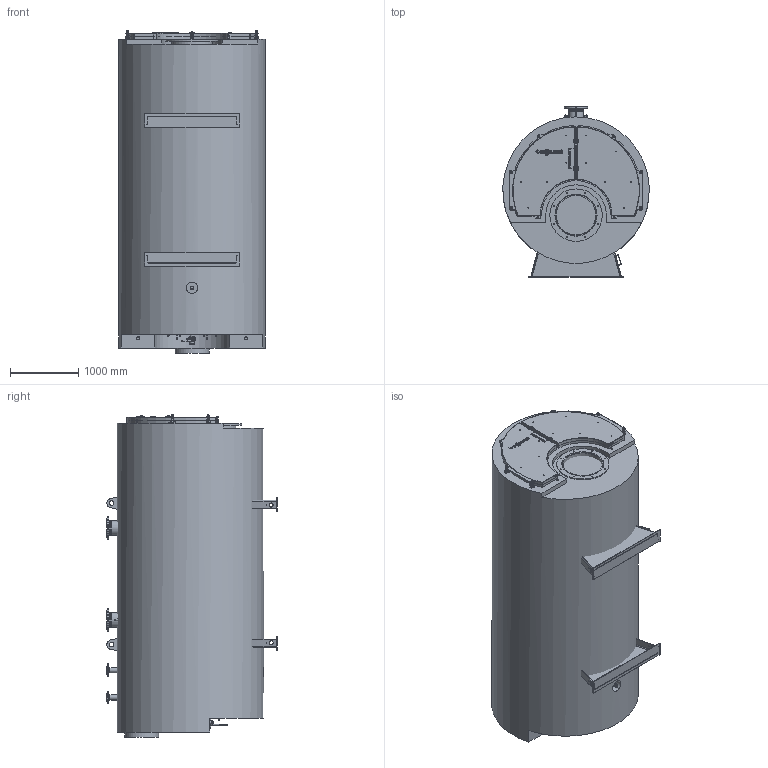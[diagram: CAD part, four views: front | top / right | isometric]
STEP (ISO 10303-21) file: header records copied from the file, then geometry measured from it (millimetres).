
FILE_DESCRIPTION(/* description */ (''),/* implementation_level */ '2;1');
FILE_NAME(/* name */ 'FU0284800_T001.stp',/* time_stamp */ '2017-05-10T12:09:27+02:00',/* author */ (''),/* organization */ (''),/* preprocessor_version */ 'ST-DEVELOPER v16',/* originating_system */ 'SIEMENS PLM Software NX 10.0',/* authorisation */ '');
FILE_SCHEMA (('AUTOMOTIVE_DESIGN { 1 0 10303 214 3 1 1 1 }'));
Length unit declared in the file: millimetre
Products named in the file (108): 9028015_T001; 5520421_T001; 5520412_T001; 5520211_T001; 5655433_T001; 9024203_T001; 5655434_T001; 5015776_T001; 5639538_T001; 5661393_T003; 9578654_T001; 5997011_T001; 5997010_T001; 5997009_T001; 5997008_T001; 5661392_T004; 9017046_T001; 5743753_T001; 5875054_T001; 6038903_T001; 9609969_T002; 6038887_T001; 5152223_T004; 9548563_T001; 5752984_T002; 5995843_T002; 6040731_T001; 5652586_T002; 6041692_T001; 9542040_T001; 9542038_T002; 9045119_T001; 5456644_T005; 5656673_T003; 5275142_T005; 5656677_T004; 9589709_T001; 9529527_T001; 5648920_T002; 5648931_T003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
Assembly tree (245 placements, depth 6):
  FU0284800_T001
    FU0284801_T001
    FU0287107_T001_MODELNX-ARRAGMNTArrangement 1
      7584126_T003_MODEL
        5636687_T003  x4
        9591781_T001  x6
        7584131_T001_MODEL
          5656550_T002  x2
          5642757_T007  x2
          5749858_T002  x4
          9639650_T001  x2
          5996360_T001  x4
          5997006_T001
          5642759_T007  x2
          5642758_T007
        5558237_T005  x2
        9557196_T001  x4
        9801033_T001  x8
        9028008_T001  x8
        9501975_T001  x4
        9516387_T001  x4
        7584127_T002_MODEL
          7584129_T002_MODEL
            5661392_T004
            5997008_T001
            5997009_T001
            5997010_T001
            5997011_T001
            9578654_T001  x6
          9649746_T001
          5997020_T001
          5997051_T001
          5997058_T001
          9516963_T001  x6
          5997059_T001
          FU0334066_T001
        7584128_T002_MODEL
          7584130_T002_MODEL
            5661393_T003
            5997008_T001
            5997009_T001
            5997010_T001
            5997011_T001
            9578654_T001  x6
          5997020_T001
          5997021_T001
          5997022_T001
          5997051_T001
          9516963_T001  x6
          9649746_T001
          FU0334066_T001
        5052125_T002
        5802704_T010
        9067614_T003  x6
      7645308_T001_MODEL
        7593291_T002_MODEL  x2
          5184434_T003
          9028008_T001
        7645309_T001_MODEL
          6043058_T001  x2
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Bounding box: 2146.69 x 2502 x 4730 mm (x, y, z)
Volume: 16261201562.1 mm3; surface area: 73244666.9 mm2
Topology: 240 solids, 240 shells, 2892 faces, 6674 edges, 4338 vertices
Faces by surface type: plane 1450, cylinder 853, cone 376, bspline 95, torus 71, extrusion 43, sphere 4
Full cylindrical faces by diameter (mm): 1 x42, 2.2 x4, 3.2 x4, 3.3 x4, 4 x6, 4.6 x4, 5 x4, 6.2 x8, 6.5 x4, 6.647 x12, 7.8 x14, 8 x14, 8.376 x8, 10 x8, 10.106 x9, 10.11 x8, 10.5 x6, 10.77 x8, 10.86 x9, 12 x59, 13 x14, 13.27 x12, 14 x7, 14.63 x8, 15 x13, 15.5 x9, 16 x3, 17.294 x8, 18 x32, 18.63 x2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
Entity records: 44681 total; most frequent: CARTESIAN_POINT 10946, DIRECTION 6098, ORIENTED_EDGE 5410, EDGE_CURVE 2705, AXIS2_PLACEMENT_3D 2439, VERTEX_POINT 2026, EDGE_LOOP 2012, ADVANCED_FACE 1314
